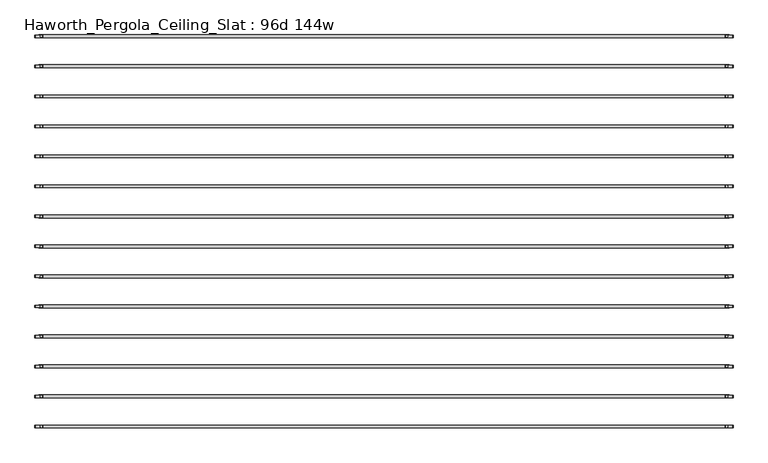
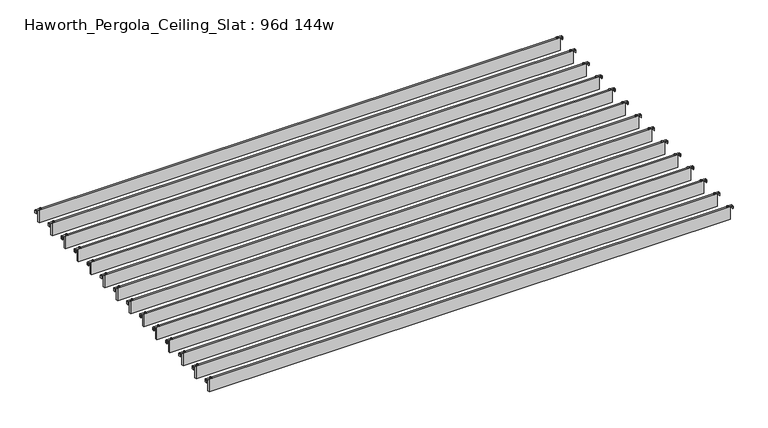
"""IFC4 building model written with IfcOpenShell, lengths in millimetres: furniture geometry, Haworth_Pergola_Ceiling_Slat : 96d 144w."""

from ifc_helpers import new_model, si_unit, point, frame, frame_2d, origin, place, context, project, spatial, polyline, circle_curve, trimmed, segment, composite_curve, outline, extrude, source, transform, mapped, element, save


def haworth_pergola_ceiling_slat_96d_144w_e5801aca(model_context):
    return source(origin(), model_context, "Body", "SweptSolid", [
        extrude(outline(composite_curve([segment(trimmed(circle_curve(frame_2d((1853.2, -304.0803333)), 5.9838099), [point((1847.2161901, -304.0803333))], [point((1859.1838099, -304.0803333))], False, "CARTESIAN"), True, "CONTINUOUS"), segment(trimmed(circle_curve(frame_2d((1853.2, -304.0803333)), 5.9838099), [point((1859.1838099, -304.0803333))], [point((1847.2161901, -304.0803333))], False, "CARTESIAN"), True, "CONTINUOUS")], self_intersect=False)), frame((0.0, 0.0, 2440.9329992), z_axis=(0.0, 0.0, 1.0), x_axis=(1.0, 0.0, 0.0)), (0.0, 0.0, 1.0), 3.4400008),
        extrude(outline(composite_curve([segment(trimmed(circle_curve(frame_2d((-1777.0, -304.0803333)), 5.9838099), [point((-1771.0161901, -304.0803333))], [point((-1782.9838099, -304.0803333))], False, "CARTESIAN"), True, "CONTINUOUS"), segment(trimmed(circle_curve(frame_2d((-1777.0, -304.0803333)), 5.9838099), [point((-1782.9838099, -304.0803333))], [point((-1771.0161901, -304.0803333))], False, "CARTESIAN"), True, "CONTINUOUS")], self_intersect=False)), frame((0.0, 0.0, 2440.9329992), z_axis=(0.0, 0.0, 1.0), x_axis=(1.0, 0.0, 0.0)), (0.0, 0.0, 1.0), 3.4400008),
        extrude(outline(composite_curve([segment(polyline([(2419.2231711, 1887.36), (2437.2499992, 1887.36)]), True, "CONTINUOUS"), segment(trimmed(circle_curve(frame_2d((2437.2499992, 1883.677)), 3.683), [point((2437.2499992, 1887.36))], [point((2440.9329992, 1883.677))], False, "CARTESIAN"), True, "CONTINUOUS"), segment(polyline([(2440.9329992, 1883.677), (2440.9329992, 1846.7), (2438.2729997, 1846.7), (2438.2729997, 1883.6905568)]), True, "CONTINUOUS"), segment(trimmed(circle_curve(frame_2d((2437.2635571, 1883.6905568)), 1.0094425), [point((2438.2729997, 1883.6905568))], [point((2437.2635571, 1884.6999993))], True, "CARTESIAN"), True, "CONTINUOUS"), segment(polyline([(2437.2635571, 1884.6999993), (2419.2231711, 1884.6999993), (2419.2231711, 1887.36)]), True, "CONTINUOUS")], self_intersect=False)), frame((0.0, -310.5733337, 0.0), z_axis=(0.0, 1.0, 0.0), x_axis=(0.0, 0.0, 1.0)), (0.0, 0.0, 1.0), 13.0),
        extrude(outline(composite_curve([segment(polyline([(2419.2231711, -1811.16), (2419.2231711, -1808.4999993), (2437.2635571, -1808.4999993)]), True, "CONTINUOUS"), segment(trimmed(circle_curve(frame_2d((2437.2635571, -1807.4905568)), 1.0094425), [point((2437.2635571, -1808.4999993))], [point((2438.2729997, -1807.4905568))], True, "CARTESIAN"), True, "CONTINUOUS"), segment(polyline([(2438.2729997, -1807.4905568), (2438.2729997, -1770.5), (2440.9329992, -1770.5), (2440.9329992, -1807.477)]), True, "CONTINUOUS"), segment(trimmed(circle_curve(frame_2d((2437.2499992, -1807.477)), 3.683), [point((2440.9329992, -1807.477))], [point((2437.2499992, -1811.16))], False, "CARTESIAN"), True, "CONTINUOUS"), segment(polyline([(2437.2499992, -1811.16), (2419.2231711, -1811.16)]), True, "CONTINUOUS")], self_intersect=False)), frame((0.0, -310.5733337, 0.0), z_axis=(0.0, 1.0, 0.0), x_axis=(0.0, 0.0, 1.0)), (0.0, 0.0, 1.0), 13.0),
        extrude(outline(polyline([(-1790.7, -311.5733333), (-1790.7, -296.5873333), (1866.9, -296.5873333), (1866.9, -311.5733333), (-1790.7, -311.5733333)])), frame((0.0, 0.0, 2346.198), z_axis=(0.0, 0.0, 1.0), x_axis=(1.0, 0.0, 0.0)), (0.0, 0.0, 1.0), 92.202),
        extrude(outline(composite_curve([segment(trimmed(circle_curve(frame_2d((1853.2, -463.2536667)), 5.9838099), [point((1847.2161901, -463.2536667))], [point((1859.1838099, -463.2536667))], False, "CARTESIAN"), True, "CONTINUOUS"), segment(trimmed(circle_curve(frame_2d((1853.2, -463.2536667)), 5.9838099), [point((1859.1838099, -463.2536667))], [point((1847.2161901, -463.2536667))], False, "CARTESIAN"), True, "CONTINUOUS")], self_intersect=False)), frame((0.0, 0.0, 2440.9329992), z_axis=(0.0, 0.0, 1.0), x_axis=(1.0, 0.0, 0.0)), (0.0, 0.0, 1.0), 3.4400008),
        extrude(outline(composite_curve([segment(trimmed(circle_curve(frame_2d((-1777.0, -463.2536667)), 5.9838099), [point((-1771.0161901, -463.2536667))], [point((-1782.9838099, -463.2536667))], False, "CARTESIAN"), True, "CONTINUOUS"), segment(trimmed(circle_curve(frame_2d((-1777.0, -463.2536667)), 5.9838099), [point((-1782.9838099, -463.2536667))], [point((-1771.0161901, -463.2536667))], False, "CARTESIAN"), True, "CONTINUOUS")], self_intersect=False)), frame((0.0, 0.0, 2440.9329992), z_axis=(0.0, 0.0, 1.0), x_axis=(1.0, 0.0, 0.0)), (0.0, 0.0, 1.0), 3.4400008),
        extrude(outline(composite_curve([segment(polyline([(2419.2231711, 1887.36), (2437.2499992, 1887.36)]), True, "CONTINUOUS"), segment(trimmed(circle_curve(frame_2d((2437.2499992, 1883.677)), 3.683), [point((2437.2499992, 1887.36))], [point((2440.9329992, 1883.677))], False, "CARTESIAN"), True, "CONTINUOUS"), segment(polyline([(2440.9329992, 1883.677), (2440.9329992, 1846.7), (2438.2729997, 1846.7), (2438.2729997, 1883.6905568)]), True, "CONTINUOUS"), segment(trimmed(circle_curve(frame_2d((2437.2635571, 1883.6905568)), 1.0094425), [point((2438.2729997, 1883.6905568))], [point((2437.2635571, 1884.6999993))], True, "CARTESIAN"), True, "CONTINUOUS"), segment(polyline([(2437.2635571, 1884.6999993), (2419.2231711, 1884.6999993), (2419.2231711, 1887.36)]), True, "CONTINUOUS")], self_intersect=False)), frame((0.0, -469.746667, 0.0), z_axis=(0.0, 1.0, 0.0), x_axis=(0.0, 0.0, 1.0)), (0.0, 0.0, 1.0), 13.0),
        extrude(outline(composite_curve([segment(polyline([(2419.2231711, -1811.16), (2419.2231711, -1808.4999993), (2437.2635571, -1808.4999993)]), True, "CONTINUOUS"), segment(trimmed(circle_curve(frame_2d((2437.2635571, -1807.4905568)), 1.0094425), [point((2437.2635571, -1808.4999993))], [point((2438.2729997, -1807.4905568))], True, "CARTESIAN"), True, "CONTINUOUS"), segment(polyline([(2438.2729997, -1807.4905568), (2438.2729997, -1770.5), (2440.9329992, -1770.5), (2440.9329992, -1807.477)]), True, "CONTINUOUS"), segment(trimmed(circle_curve(frame_2d((2437.2499992, -1807.477)), 3.683), [point((2440.9329992, -1807.477))], [point((2437.2499992, -1811.16))], False, "CARTESIAN"), True, "CONTINUOUS"), segment(polyline([(2437.2499992, -1811.16), (2419.2231711, -1811.16)]), True, "CONTINUOUS")], self_intersect=False)), frame((0.0, -469.746667, 0.0), z_axis=(0.0, 1.0, 0.0), x_axis=(0.0, 0.0, 1.0)), (0.0, 0.0, 1.0), 13.0),
        extrude(outline(polyline([(-1790.7, -470.7466667), (-1790.7, -455.7606667), (1866.9, -455.7606667), (1866.9, -470.7466667), (-1790.7, -470.7466667)])), frame((0.0, 0.0, 2346.198), z_axis=(0.0, 0.0, 1.0), x_axis=(1.0, 0.0, 0.0)), (0.0, 0.0, 1.0), 92.202),
        extrude(outline(composite_curve([segment(trimmed(circle_curve(frame_2d((1853.2, -622.427)), 5.9838099), [point((1847.2161901, -622.427))], [point((1859.1838099, -622.427))], False, "CARTESIAN"), True, "CONTINUOUS"), segment(trimmed(circle_curve(frame_2d((1853.2, -622.427)), 5.9838099), [point((1859.1838099, -622.427))], [point((1847.2161901, -622.427))], False, "CARTESIAN"), True, "CONTINUOUS")], self_intersect=False)), frame((0.0, 0.0, 2440.9329992), z_axis=(0.0, 0.0, 1.0), x_axis=(1.0, 0.0, 0.0)), (0.0, 0.0, 1.0), 3.4400008),
        extrude(outline(composite_curve([segment(trimmed(circle_curve(frame_2d((-1777.0, -622.427)), 5.9838099), [point((-1771.0161901, -622.427))], [point((-1782.9838099, -622.427))], False, "CARTESIAN"), True, "CONTINUOUS"), segment(trimmed(circle_curve(frame_2d((-1777.0, -622.427)), 5.9838099), [point((-1782.9838099, -622.427))], [point((-1771.0161901, -622.427))], False, "CARTESIAN"), True, "CONTINUOUS")], self_intersect=False)), frame((0.0, 0.0, 2440.9329992), z_axis=(0.0, 0.0, 1.0), x_axis=(1.0, 0.0, 0.0)), (0.0, 0.0, 1.0), 3.4400008),
        extrude(outline(composite_curve([segment(polyline([(2419.2231711, 1887.36), (2437.2499992, 1887.36)]), True, "CONTINUOUS"), segment(trimmed(circle_curve(frame_2d((2437.2499992, 1883.677)), 3.683), [point((2437.2499992, 1887.36))], [point((2440.9329992, 1883.677))], False, "CARTESIAN"), True, "CONTINUOUS"), segment(polyline([(2440.9329992, 1883.677), (2440.9329992, 1846.7), (2438.2729997, 1846.7), (2438.2729997, 1883.6905568)]), True, "CONTINUOUS"), segment(trimmed(circle_curve(frame_2d((2437.2635571, 1883.6905568)), 1.0094425), [point((2438.2729997, 1883.6905568))], [point((2437.2635571, 1884.6999993))], True, "CARTESIAN"), True, "CONTINUOUS"), segment(polyline([(2437.2635571, 1884.6999993), (2419.2231711, 1884.6999993), (2419.2231711, 1887.36)]), True, "CONTINUOUS")], self_intersect=False)), frame((0.0, -628.9200003, 0.0), z_axis=(0.0, 1.0, 0.0), x_axis=(0.0, 0.0, 1.0)), (0.0, 0.0, 1.0), 13.0),
        extrude(outline(composite_curve([segment(polyline([(2419.2231711, -1811.16), (2419.2231711, -1808.4999993), (2437.2635571, -1808.4999993)]), True, "CONTINUOUS"), segment(trimmed(circle_curve(frame_2d((2437.2635571, -1807.4905568)), 1.0094425), [point((2437.2635571, -1808.4999993))], [point((2438.2729997, -1807.4905568))], True, "CARTESIAN"), True, "CONTINUOUS"), segment(polyline([(2438.2729997, -1807.4905568), (2438.2729997, -1770.5), (2440.9329992, -1770.5), (2440.9329992, -1807.477)]), True, "CONTINUOUS"), segment(trimmed(circle_curve(frame_2d((2437.2499992, -1807.477)), 3.683), [point((2440.9329992, -1807.477))], [point((2437.2499992, -1811.16))], False, "CARTESIAN"), True, "CONTINUOUS"), segment(polyline([(2437.2499992, -1811.16), (2419.2231711, -1811.16)]), True, "CONTINUOUS")], self_intersect=False)), frame((0.0, -628.9200003, 0.0), z_axis=(0.0, 1.0, 0.0), x_axis=(0.0, 0.0, 1.0)), (0.0, 0.0, 1.0), 13.0),
        extrude(outline(polyline([(-1790.7, -629.92), (-1790.7, -614.934), (1866.9, -614.934), (1866.9, -629.92), (-1790.7, -629.92)])), frame((0.0, 0.0, 2346.198), z_axis=(0.0, 0.0, 1.0), x_axis=(1.0, 0.0, 0.0)), (0.0, 0.0, 1.0), 92.202),
        extrude(outline(composite_curve([segment(trimmed(circle_curve(frame_2d((1853.2, -781.6003333)), 5.9838099), [point((1847.2161901, -781.6003333))], [point((1859.1838099, -781.6003333))], False, "CARTESIAN"), True, "CONTINUOUS"), segment(trimmed(circle_curve(frame_2d((1853.2, -781.6003333)), 5.9838099), [point((1859.1838099, -781.6003333))], [point((1847.2161901, -781.6003333))], False, "CARTESIAN"), True, "CONTINUOUS")], self_intersect=False)), frame((0.0, 0.0, 2440.9329992), z_axis=(0.0, 0.0, 1.0), x_axis=(1.0, 0.0, 0.0)), (0.0, 0.0, 1.0), 3.4400008),
        extrude(outline(composite_curve([segment(trimmed(circle_curve(frame_2d((-1777.0, -781.6003333)), 5.9838099), [point((-1771.0161901, -781.6003333))], [point((-1782.9838099, -781.6003333))], False, "CARTESIAN"), True, "CONTINUOUS"), segment(trimmed(circle_curve(frame_2d((-1777.0, -781.6003333)), 5.9838099), [point((-1782.9838099, -781.6003333))], [point((-1771.0161901, -781.6003333))], False, "CARTESIAN"), True, "CONTINUOUS")], self_intersect=False)), frame((0.0, 0.0, 2440.9329992), z_axis=(0.0, 0.0, 1.0), x_axis=(1.0, 0.0, 0.0)), (0.0, 0.0, 1.0), 3.4400008),
        extrude(outline(composite_curve([segment(polyline([(2419.2231711, 1887.36), (2437.2499992, 1887.36)]), True, "CONTINUOUS"), segment(trimmed(circle_curve(frame_2d((2437.2499992, 1883.677)), 3.683), [point((2437.2499992, 1887.36))], [point((2440.9329992, 1883.677))], False, "CARTESIAN"), True, "CONTINUOUS"), segment(polyline([(2440.9329992, 1883.677), (2440.9329992, 1846.7), (2438.2729997, 1846.7), (2438.2729997, 1883.6905568)]), True, "CONTINUOUS"), segment(trimmed(circle_curve(frame_2d((2437.2635571, 1883.6905568)), 1.0094425), [point((2438.2729997, 1883.6905568))], [point((2437.2635571, 1884.6999993))], True, "CARTESIAN"), True, "CONTINUOUS"), segment(polyline([(2437.2635571, 1884.6999993), (2419.2231711, 1884.6999993), (2419.2231711, 1887.36)]), True, "CONTINUOUS")], self_intersect=False)), frame((0.0, -788.0933337, 0.0), z_axis=(0.0, 1.0, 0.0), x_axis=(0.0, 0.0, 1.0)), (0.0, 0.0, 1.0), 13.0),
        extrude(outline(composite_curve([segment(polyline([(2419.2231711, -1811.16), (2419.2231711, -1808.4999993), (2437.2635571, -1808.4999993)]), True, "CONTINUOUS"), segment(trimmed(circle_curve(frame_2d((2437.2635571, -1807.4905568)), 1.0094425), [point((2437.2635571, -1808.4999993))], [point((2438.2729997, -1807.4905568))], True, "CARTESIAN"), True, "CONTINUOUS"), segment(polyline([(2438.2729997, -1807.4905568), (2438.2729997, -1770.5), (2440.9329992, -1770.5), (2440.9329992, -1807.477)]), True, "CONTINUOUS"), segment(trimmed(circle_curve(frame_2d((2437.2499992, -1807.477)), 3.683), [point((2440.9329992, -1807.477))], [point((2437.2499992, -1811.16))], False, "CARTESIAN"), True, "CONTINUOUS"), segment(polyline([(2437.2499992, -1811.16), (2419.2231711, -1811.16)]), True, "CONTINUOUS")], self_intersect=False)), frame((0.0, -788.0933337, 0.0), z_axis=(0.0, 1.0, 0.0), x_axis=(0.0, 0.0, 1.0)), (0.0, 0.0, 1.0), 13.0),
        extrude(outline(polyline([(-1790.7, -789.0933333), (-1790.7, -774.1073333), (1866.9, -774.1073333), (1866.9, -789.0933333), (-1790.7, -789.0933333)])), frame((0.0, 0.0, 2346.198), z_axis=(0.0, 0.0, 1.0), x_axis=(1.0, 0.0, 0.0)), (0.0, 0.0, 1.0), 92.202),
        extrude(outline(composite_curve([segment(trimmed(circle_curve(frame_2d((1853.2, -940.7736667)), 5.9838099), [point((1847.2161901, -940.7736667))], [point((1859.1838099, -940.7736667))], False, "CARTESIAN"), True, "CONTINUOUS"), segment(trimmed(circle_curve(frame_2d((1853.2, -940.7736667)), 5.9838099), [point((1859.1838099, -940.7736667))], [point((1847.2161901, -940.7736667))], False, "CARTESIAN"), True, "CONTINUOUS")], self_intersect=False)), frame((0.0, 0.0, 2440.9329992), z_axis=(0.0, 0.0, 1.0), x_axis=(1.0, 0.0, 0.0)), (0.0, 0.0, 1.0), 3.4400008),
        extrude(outline(composite_curve([segment(trimmed(circle_curve(frame_2d((-1777.0, -940.7736667)), 5.9838099), [point((-1771.0161901, -940.7736667))], [point((-1782.9838099, -940.7736667))], False, "CARTESIAN"), True, "CONTINUOUS"), segment(trimmed(circle_curve(frame_2d((-1777.0, -940.7736667)), 5.9838099), [point((-1782.9838099, -940.7736667))], [point((-1771.0161901, -940.7736667))], False, "CARTESIAN"), True, "CONTINUOUS")], self_intersect=False)), frame((0.0, 0.0, 2440.9329992), z_axis=(0.0, 0.0, 1.0), x_axis=(1.0, 0.0, 0.0)), (0.0, 0.0, 1.0), 3.4400008),
        extrude(outline(composite_curve([segment(polyline([(2419.2231711, 1887.36), (2437.2499992, 1887.36)]), True, "CONTINUOUS"), segment(trimmed(circle_curve(frame_2d((2437.2499992, 1883.677)), 3.683), [point((2437.2499992, 1887.36))], [point((2440.9329992, 1883.677))], False, "CARTESIAN"), True, "CONTINUOUS"), segment(polyline([(2440.9329992, 1883.677), (2440.9329992, 1846.7), (2438.2729997, 1846.7), (2438.2729997, 1883.6905568)]), True, "CONTINUOUS"), segment(trimmed(circle_curve(frame_2d((2437.2635571, 1883.6905568)), 1.0094425), [point((2438.2729997, 1883.6905568))], [point((2437.2635571, 1884.6999993))], True, "CARTESIAN"), True, "CONTINUOUS"), segment(polyline([(2437.2635571, 1884.6999993), (2419.2231711, 1884.6999993), (2419.2231711, 1887.36)]), True, "CONTINUOUS")], self_intersect=False)), frame((0.0, -947.266667, 0.0), z_axis=(0.0, 1.0, 0.0), x_axis=(0.0, 0.0, 1.0)), (0.0, 0.0, 1.0), 13.0),
        extrude(outline(composite_curve([segment(polyline([(2419.2231711, -1811.16), (2419.2231711, -1808.4999993), (2437.2635571, -1808.4999993)]), True, "CONTINUOUS"), segment(trimmed(circle_curve(frame_2d((2437.2635571, -1807.4905568)), 1.0094425), [point((2437.2635571, -1808.4999993))], [point((2438.2729997, -1807.4905568))], True, "CARTESIAN"), True, "CONTINUOUS"), segment(polyline([(2438.2729997, -1807.4905568), (2438.2729997, -1770.5), (2440.9329992, -1770.5), (2440.9329992, -1807.477)]), True, "CONTINUOUS"), segment(trimmed(circle_curve(frame_2d((2437.2499992, -1807.477)), 3.683), [point((2440.9329992, -1807.477))], [point((2437.2499992, -1811.16))], False, "CARTESIAN"), True, "CONTINUOUS"), segment(polyline([(2437.2499992, -1811.16), (2419.2231711, -1811.16)]), True, "CONTINUOUS")], self_intersect=False)), frame((0.0, -947.266667, 0.0), z_axis=(0.0, 1.0, 0.0), x_axis=(0.0, 0.0, 1.0)), (0.0, 0.0, 1.0), 13.0),
        extrude(outline(polyline([(-1790.7, -948.2666667), (-1790.7, -933.2806667), (1866.9, -933.2806667), (1866.9, -948.2666667), (-1790.7, -948.2666667)])), frame((0.0, 0.0, 2346.198), z_axis=(0.0, 0.0, 1.0), x_axis=(1.0, 0.0, 0.0)), (0.0, 0.0, 1.0), 92.202),
        extrude(outline(composite_curve([segment(trimmed(circle_curve(frame_2d((1853.2, -1099.947)), 5.9838099), [point((1847.2161901, -1099.947))], [point((1859.1838099, -1099.947))], False, "CARTESIAN"), True, "CONTINUOUS"), segment(trimmed(circle_curve(frame_2d((1853.2, -1099.947)), 5.9838099), [point((1859.1838099, -1099.947))], [point((1847.2161901, -1099.947))], False, "CARTESIAN"), True, "CONTINUOUS")], self_intersect=False)), frame((0.0, 0.0, 2440.9329992), z_axis=(0.0, 0.0, 1.0), x_axis=(1.0, 0.0, 0.0)), (0.0, 0.0, 1.0), 3.4400008),
        extrude(outline(composite_curve([segment(trimmed(circle_curve(frame_2d((-1777.0, -1099.947)), 5.9838099), [point((-1771.0161901, -1099.947))], [point((-1782.9838099, -1099.947))], False, "CARTESIAN"), True, "CONTINUOUS"), segment(trimmed(circle_curve(frame_2d((-1777.0, -1099.947)), 5.9838099), [point((-1782.9838099, -1099.947))], [point((-1771.0161901, -1099.947))], False, "CARTESIAN"), True, "CONTINUOUS")], self_intersect=False)), frame((0.0, 0.0, 2440.9329992), z_axis=(0.0, 0.0, 1.0), x_axis=(1.0, 0.0, 0.0)), (0.0, 0.0, 1.0), 3.4400008),
        extrude(outline(composite_curve([segment(polyline([(2419.2231711, 1887.36), (2437.2499992, 1887.36)]), True, "CONTINUOUS"), segment(trimmed(circle_curve(frame_2d((2437.2499992, 1883.677)), 3.683), [point((2437.2499992, 1887.36))], [point((2440.9329992, 1883.677))], False, "CARTESIAN"), True, "CONTINUOUS"), segment(polyline([(2440.9329992, 1883.677), (2440.9329992, 1846.7), (2438.2729997, 1846.7), (2438.2729997, 1883.6905568)]), True, "CONTINUOUS"), segment(trimmed(circle_curve(frame_2d((2437.2635571, 1883.6905568)), 1.0094425), [point((2438.2729997, 1883.6905568))], [point((2437.2635571, 1884.6999993))], True, "CARTESIAN"), True, "CONTINUOUS"), segment(polyline([(2437.2635571, 1884.6999993), (2419.2231711, 1884.6999993), (2419.2231711, 1887.36)]), True, "CONTINUOUS")], self_intersect=False)), frame((0.0, -1106.4400003, 0.0), z_axis=(0.0, 1.0, 0.0), x_axis=(0.0, 0.0, 1.0)), (0.0, 0.0, 1.0), 13.0),
        extrude(outline(composite_curve([segment(polyline([(2419.2231711, -1811.16), (2419.2231711, -1808.4999993), (2437.2635571, -1808.4999993)]), True, "CONTINUOUS"), segment(trimmed(circle_curve(frame_2d((2437.2635571, -1807.4905568)), 1.0094425), [point((2437.2635571, -1808.4999993))], [point((2438.2729997, -1807.4905568))], True, "CARTESIAN"), True, "CONTINUOUS"), segment(polyline([(2438.2729997, -1807.4905568), (2438.2729997, -1770.5), (2440.9329992, -1770.5), (2440.9329992, -1807.477)]), True, "CONTINUOUS"), segment(trimmed(circle_curve(frame_2d((2437.2499992, -1807.477)), 3.683), [point((2440.9329992, -1807.477))], [point((2437.2499992, -1811.16))], False, "CARTESIAN"), True, "CONTINUOUS"), segment(polyline([(2437.2499992, -1811.16), (2419.2231711, -1811.16)]), True, "CONTINUOUS")], self_intersect=False)), frame((0.0, -1106.4400003, 0.0), z_axis=(0.0, 1.0, 0.0), x_axis=(0.0, 0.0, 1.0)), (0.0, 0.0, 1.0), 13.0),
        extrude(outline(polyline([(-1790.7, -1107.44), (-1790.7, -1092.454), (1866.9, -1092.454), (1866.9, -1107.44), (-1790.7, -1107.44)])), frame((0.0, 0.0, 2346.198), z_axis=(0.0, 0.0, 1.0), x_axis=(1.0, 0.0, 0.0)), (0.0, 0.0, 1.0), 92.202),
        extrude(outline(composite_curve([segment(trimmed(circle_curve(frame_2d((1853.2, -1259.1203333)), 5.9838099), [point((1847.2161901, -1259.1203333))], [point((1859.1838099, -1259.1203333))], False, "CARTESIAN"), True, "CONTINUOUS"), segment(trimmed(circle_curve(frame_2d((1853.2, -1259.1203333)), 5.9838099), [point((1859.1838099, -1259.1203333))], [point((1847.2161901, -1259.1203333))], False, "CARTESIAN"), True, "CONTINUOUS")], self_intersect=False)), frame((0.0, 0.0, 2440.9329992), z_axis=(0.0, 0.0, 1.0), x_axis=(1.0, 0.0, 0.0)), (0.0, 0.0, 1.0), 3.4400008),
        extrude(outline(composite_curve([segment(trimmed(circle_curve(frame_2d((-1777.0, -1259.1203333)), 5.9838099), [point((-1771.0161901, -1259.1203333))], [point((-1782.9838099, -1259.1203333))], False, "CARTESIAN"), True, "CONTINUOUS"), segment(trimmed(circle_curve(frame_2d((-1777.0, -1259.1203333)), 5.9838099), [point((-1782.9838099, -1259.1203333))], [point((-1771.0161901, -1259.1203333))], False, "CARTESIAN"), True, "CONTINUOUS")], self_intersect=False)), frame((0.0, 0.0, 2440.9329992), z_axis=(0.0, 0.0, 1.0), x_axis=(1.0, 0.0, 0.0)), (0.0, 0.0, 1.0), 3.4400008),
        extrude(outline(composite_curve([segment(polyline([(2419.2231711, 1887.36), (2437.2499992, 1887.36)]), True, "CONTINUOUS"), segment(trimmed(circle_curve(frame_2d((2437.2499992, 1883.677)), 3.683), [point((2437.2499992, 1887.36))], [point((2440.9329992, 1883.677))], False, "CARTESIAN"), True, "CONTINUOUS"), segment(polyline([(2440.9329992, 1883.677), (2440.9329992, 1846.7), (2438.2729997, 1846.7), (2438.2729997, 1883.6905568)]), True, "CONTINUOUS"), segment(trimmed(circle_curve(frame_2d((2437.2635571, 1883.6905568)), 1.0094425), [point((2438.2729997, 1883.6905568))], [point((2437.2635571, 1884.6999993))], True, "CARTESIAN"), True, "CONTINUOUS"), segment(polyline([(2437.2635571, 1884.6999993), (2419.2231711, 1884.6999993), (2419.2231711, 1887.36)]), True, "CONTINUOUS")], self_intersect=False)), frame((0.0, -1265.6133337, 0.0), z_axis=(0.0, 1.0, 0.0), x_axis=(0.0, 0.0, 1.0)), (0.0, 0.0, 1.0), 13.0),
        extrude(outline(composite_curve([segment(polyline([(2419.2231711, -1811.16), (2419.2231711, -1808.4999993), (2437.2635571, -1808.4999993)]), True, "CONTINUOUS"), segment(trimmed(circle_curve(frame_2d((2437.2635571, -1807.4905568)), 1.0094425), [point((2437.2635571, -1808.4999993))], [point((2438.2729997, -1807.4905568))], True, "CARTESIAN"), True, "CONTINUOUS"), segment(polyline([(2438.2729997, -1807.4905568), (2438.2729997, -1770.5), (2440.9329992, -1770.5), (2440.9329992, -1807.477)]), True, "CONTINUOUS"), segment(trimmed(circle_curve(frame_2d((2437.2499992, -1807.477)), 3.683), [point((2440.9329992, -1807.477))], [point((2437.2499992, -1811.16))], False, "CARTESIAN"), True, "CONTINUOUS"), segment(polyline([(2437.2499992, -1811.16), (2419.2231711, -1811.16)]), True, "CONTINUOUS")], self_intersect=False)), frame((0.0, -1265.6133337, 0.0), z_axis=(0.0, 1.0, 0.0), x_axis=(0.0, 0.0, 1.0)), (0.0, 0.0, 1.0), 13.0),
        extrude(outline(polyline([(-1790.7, -1266.6133333), (-1790.7, -1251.6273333), (1866.9, -1251.6273333), (1866.9, -1266.6133333), (-1790.7, -1266.6133333)])), frame((0.0, 0.0, 2346.198), z_axis=(0.0, 0.0, 1.0), x_axis=(1.0, 0.0, 0.0)), (0.0, 0.0, 1.0), 92.202),
        extrude(outline(composite_curve([segment(trimmed(circle_curve(frame_2d((1853.2, -1418.2936667)), 5.9838099), [point((1847.2161901, -1418.2936667))], [point((1859.1838099, -1418.2936667))], False, "CARTESIAN"), True, "CONTINUOUS"), segment(trimmed(circle_curve(frame_2d((1853.2, -1418.2936667)), 5.9838099), [point((1859.1838099, -1418.2936667))], [point((1847.2161901, -1418.2936667))], False, "CARTESIAN"), True, "CONTINUOUS")], self_intersect=False)), frame((0.0, 0.0, 2440.9329992), z_axis=(0.0, 0.0, 1.0), x_axis=(1.0, 0.0, 0.0)), (0.0, 0.0, 1.0), 3.4400008),
        extrude(outline(composite_curve([segment(trimmed(circle_curve(frame_2d((-1777.0, -1418.2936667)), 5.9838099), [point((-1771.0161901, -1418.2936667))], [point((-1782.9838099, -1418.2936667))], False, "CARTESIAN"), True, "CONTINUOUS"), segment(trimmed(circle_curve(frame_2d((-1777.0, -1418.2936667)), 5.9838099), [point((-1782.9838099, -1418.2936667))], [point((-1771.0161901, -1418.2936667))], False, "CARTESIAN"), True, "CONTINUOUS")], self_intersect=False)), frame((0.0, 0.0, 2440.9329992), z_axis=(0.0, 0.0, 1.0), x_axis=(1.0, 0.0, 0.0)), (0.0, 0.0, 1.0), 3.4400008),
        extrude(outline(composite_curve([segment(polyline([(2419.2231711, 1887.36), (2437.2499992, 1887.36)]), True, "CONTINUOUS"), segment(trimmed(circle_curve(frame_2d((2437.2499992, 1883.677)), 3.683), [point((2437.2499992, 1887.36))], [point((2440.9329992, 1883.677))], False, "CARTESIAN"), True, "CONTINUOUS"), segment(polyline([(2440.9329992, 1883.677), (2440.9329992, 1846.7), (2438.2729997, 1846.7), (2438.2729997, 1883.6905568)]), True, "CONTINUOUS"), segment(trimmed(circle_curve(frame_2d((2437.2635571, 1883.6905568)), 1.0094425), [point((2438.2729997, 1883.6905568))], [point((2437.2635571, 1884.6999993))], True, "CARTESIAN"), True, "CONTINUOUS"), segment(polyline([(2437.2635571, 1884.6999993), (2419.2231711, 1884.6999993), (2419.2231711, 1887.36)]), True, "CONTINUOUS")], self_intersect=False)), frame((0.0, -1424.786667, 0.0), z_axis=(0.0, 1.0, 0.0), x_axis=(0.0, 0.0, 1.0)), (0.0, 0.0, 1.0), 13.0),
        extrude(outline(composite_curve([segment(polyline([(2419.2231711, -1811.16), (2419.2231711, -1808.4999993), (2437.2635571, -1808.4999993)]), True, "CONTINUOUS"), segment(trimmed(circle_curve(frame_2d((2437.2635571, -1807.4905568)), 1.0094425), [point((2437.2635571, -1808.4999993))], [point((2438.2729997, -1807.4905568))], True, "CARTESIAN"), True, "CONTINUOUS"), segment(polyline([(2438.2729997, -1807.4905568), (2438.2729997, -1770.5), (2440.9329992, -1770.5), (2440.9329992, -1807.477)]), True, "CONTINUOUS"), segment(trimmed(circle_curve(frame_2d((2437.2499992, -1807.477)), 3.683), [point((2440.9329992, -1807.477))], [point((2437.2499992, -1811.16))], False, "CARTESIAN"), True, "CONTINUOUS"), segment(polyline([(2437.2499992, -1811.16), (2419.2231711, -1811.16)]), True, "CONTINUOUS")], self_intersect=False)), frame((0.0, -1424.786667, 0.0), z_axis=(0.0, 1.0, 0.0), x_axis=(0.0, 0.0, 1.0)), (0.0, 0.0, 1.0), 13.0),
        extrude(outline(polyline([(-1790.7, -1425.7866667), (-1790.7, -1410.8006667), (1866.9, -1410.8006667), (1866.9, -1425.7866667), (-1790.7, -1425.7866667)])), frame((0.0, 0.0, 2346.198), z_axis=(0.0, 0.0, 1.0), x_axis=(1.0, 0.0, 0.0)), (0.0, 0.0, 1.0), 92.202),
        extrude(outline(composite_curve([segment(trimmed(circle_curve(frame_2d((1853.2, -1577.467)), 5.9838099), [point((1847.2161901, -1577.467))], [point((1859.1838099, -1577.467))], False, "CARTESIAN"), True, "CONTINUOUS"), segment(trimmed(circle_curve(frame_2d((1853.2, -1577.467)), 5.9838099), [point((1859.1838099, -1577.467))], [point((1847.2161901, -1577.467))], False, "CARTESIAN"), True, "CONTINUOUS")], self_intersect=False)), frame((0.0, 0.0, 2440.9329992), z_axis=(0.0, 0.0, 1.0), x_axis=(1.0, 0.0, 0.0)), (0.0, 0.0, 1.0), 3.4400008),
        extrude(outline(composite_curve([segment(trimmed(circle_curve(frame_2d((-1777.0, -1577.467)), 5.9838099), [point((-1771.0161901, -1577.467))], [point((-1782.9838099, -1577.467))], False, "CARTESIAN"), True, "CONTINUOUS"), segment(trimmed(circle_curve(frame_2d((-1777.0, -1577.467)), 5.9838099), [point((-1782.9838099, -1577.467))], [point((-1771.0161901, -1577.467))], False, "CARTESIAN"), True, "CONTINUOUS")], self_intersect=False)), frame((0.0, 0.0, 2440.9329992), z_axis=(0.0, 0.0, 1.0), x_axis=(1.0, 0.0, 0.0)), (0.0, 0.0, 1.0), 3.4400008),
        extrude(outline(composite_curve([segment(polyline([(2419.2231711, 1887.36), (2437.2499992, 1887.36)]), True, "CONTINUOUS"), segment(trimmed(circle_curve(frame_2d((2437.2499992, 1883.677)), 3.683), [point((2437.2499992, 1887.36))], [point((2440.9329992, 1883.677))], False, "CARTESIAN"), True, "CONTINUOUS"), segment(polyline([(2440.9329992, 1883.677), (2440.9329992, 1846.7), (2438.2729997, 1846.7), (2438.2729997, 1883.6905568)]), True, "CONTINUOUS"), segment(trimmed(circle_curve(frame_2d((2437.2635571, 1883.6905568)), 1.0094425), [point((2438.2729997, 1883.6905568))], [point((2437.2635571, 1884.6999993))], True, "CARTESIAN"), True, "CONTINUOUS"), segment(polyline([(2437.2635571, 1884.6999993), (2419.2231711, 1884.6999993), (2419.2231711, 1887.36)]), True, "CONTINUOUS")], self_intersect=False)), frame((0.0, -1583.9600003, 0.0), z_axis=(0.0, 1.0, 0.0), x_axis=(0.0, 0.0, 1.0)), (0.0, 0.0, 1.0), 13.0),
        extrude(outline(composite_curve([segment(polyline([(2419.2231711, -1811.16), (2419.2231711, -1808.4999993), (2437.2635571, -1808.4999993)]), True, "CONTINUOUS"), segment(trimmed(circle_curve(frame_2d((2437.2635571, -1807.4905568)), 1.0094425), [point((2437.2635571, -1808.4999993))], [point((2438.2729997, -1807.4905568))], True, "CARTESIAN"), True, "CONTINUOUS"), segment(polyline([(2438.2729997, -1807.4905568), (2438.2729997, -1770.5), (2440.9329992, -1770.5), (2440.9329992, -1807.477)]), True, "CONTINUOUS"), segment(trimmed(circle_curve(frame_2d((2437.2499992, -1807.477)), 3.683), [point((2440.9329992, -1807.477))], [point((2437.2499992, -1811.16))], False, "CARTESIAN"), True, "CONTINUOUS"), segment(polyline([(2437.2499992, -1811.16), (2419.2231711, -1811.16)]), True, "CONTINUOUS")], self_intersect=False)), frame((0.0, -1583.9600003, 0.0), z_axis=(0.0, 1.0, 0.0), x_axis=(0.0, 0.0, 1.0)), (0.0, 0.0, 1.0), 13.0),
        extrude(outline(polyline([(-1790.7, -1584.96), (-1790.7, -1569.974), (1866.9, -1569.974), (1866.9, -1584.96), (-1790.7, -1584.96)])), frame((0.0, 0.0, 2346.198), z_axis=(0.0, 0.0, 1.0), x_axis=(1.0, 0.0, 0.0)), (0.0, 0.0, 1.0), 92.202),
        extrude(outline(composite_curve([segment(trimmed(circle_curve(frame_2d((1853.2, -1736.6403333)), 5.9838099), [point((1847.2161901, -1736.6403333))], [point((1859.1838099, -1736.6403333))], False, "CARTESIAN"), True, "CONTINUOUS"), segment(trimmed(circle_curve(frame_2d((1853.2, -1736.6403333)), 5.9838099), [point((1859.1838099, -1736.6403333))], [point((1847.2161901, -1736.6403333))], False, "CARTESIAN"), True, "CONTINUOUS")], self_intersect=False)), frame((0.0, 0.0, 2440.9329992), z_axis=(0.0, 0.0, 1.0), x_axis=(1.0, 0.0, 0.0)), (0.0, 0.0, 1.0), 3.4400008),
        extrude(outline(composite_curve([segment(trimmed(circle_curve(frame_2d((-1777.0, -1736.6403333)), 5.9838099), [point((-1771.0161901, -1736.6403333))], [point((-1782.9838099, -1736.6403333))], False, "CARTESIAN"), True, "CONTINUOUS"), segment(trimmed(circle_curve(frame_2d((-1777.0, -1736.6403333)), 5.9838099), [point((-1782.9838099, -1736.6403333))], [point((-1771.0161901, -1736.6403333))], False, "CARTESIAN"), True, "CONTINUOUS")], self_intersect=False)), frame((0.0, 0.0, 2440.9329992), z_axis=(0.0, 0.0, 1.0), x_axis=(1.0, 0.0, 0.0)), (0.0, 0.0, 1.0), 3.4400008),
        extrude(outline(composite_curve([segment(polyline([(2419.2231711, 1887.36), (2437.2499992, 1887.36)]), True, "CONTINUOUS"), segment(trimmed(circle_curve(frame_2d((2437.2499992, 1883.677)), 3.683), [point((2437.2499992, 1887.36))], [point((2440.9329992, 1883.677))], False, "CARTESIAN"), True, "CONTINUOUS"), segment(polyline([(2440.9329992, 1883.677), (2440.9329992, 1846.7), (2438.2729997, 1846.7), (2438.2729997, 1883.6905568)]), True, "CONTINUOUS"), segment(trimmed(circle_curve(frame_2d((2437.2635571, 1883.6905568)), 1.0094425), [point((2438.2729997, 1883.6905568))], [point((2437.2635571, 1884.6999993))], True, "CARTESIAN"), True, "CONTINUOUS"), segment(polyline([(2437.2635571, 1884.6999993), (2419.2231711, 1884.6999993), (2419.2231711, 1887.36)]), True, "CONTINUOUS")], self_intersect=False)), frame((0.0, -1743.1333337, 0.0), z_axis=(0.0, 1.0, 0.0), x_axis=(0.0, 0.0, 1.0)), (0.0, 0.0, 1.0), 13.0),
        extrude(outline(composite_curve([segment(polyline([(2419.2231711, -1811.16), (2419.2231711, -1808.4999993), (2437.2635571, -1808.4999993)]), True, "CONTINUOUS"), segment(trimmed(circle_curve(frame_2d((2437.2635571, -1807.4905568)), 1.0094425), [point((2437.2635571, -1808.4999993))], [point((2438.2729997, -1807.4905568))], True, "CARTESIAN"), True, "CONTINUOUS"), segment(polyline([(2438.2729997, -1807.4905568), (2438.2729997, -1770.5), (2440.9329992, -1770.5), (2440.9329992, -1807.477)]), True, "CONTINUOUS"), segment(trimmed(circle_curve(frame_2d((2437.2499992, -1807.477)), 3.683), [point((2440.9329992, -1807.477))], [point((2437.2499992, -1811.16))], False, "CARTESIAN"), True, "CONTINUOUS"), segment(polyline([(2437.2499992, -1811.16), (2419.2231711, -1811.16)]), True, "CONTINUOUS")], self_intersect=False)), frame((0.0, -1743.1333337, 0.0), z_axis=(0.0, 1.0, 0.0), x_axis=(0.0, 0.0, 1.0)), (0.0, 0.0, 1.0), 13.0),
        extrude(outline(polyline([(-1790.7, -1744.1333333), (-1790.7, -1729.1473333), (1866.9, -1729.1473333), (1866.9, -1744.1333333), (-1790.7, -1744.1333333)])), frame((0.0, 0.0, 2346.198), z_axis=(0.0, 0.0, 1.0), x_axis=(1.0, 0.0, 0.0)), (0.0, 0.0, 1.0), 92.202),
        extrude(outline(composite_curve([segment(trimmed(circle_curve(frame_2d((1853.2, -1895.8136667)), 5.9838099), [point((1847.2161901, -1895.8136667))], [point((1859.1838099, -1895.8136667))], False, "CARTESIAN"), True, "CONTINUOUS"), segment(trimmed(circle_curve(frame_2d((1853.2, -1895.8136667)), 5.9838099), [point((1859.1838099, -1895.8136667))], [point((1847.2161901, -1895.8136667))], False, "CARTESIAN"), True, "CONTINUOUS")], self_intersect=False)), frame((0.0, 0.0, 2440.9329992), z_axis=(0.0, 0.0, 1.0), x_axis=(1.0, 0.0, 0.0)), (0.0, 0.0, 1.0), 3.4400008),
        extrude(outline(composite_curve([segment(trimmed(circle_curve(frame_2d((-1777.0, -1895.8136667)), 5.9838099), [point((-1771.0161901, -1895.8136667))], [point((-1782.9838099, -1895.8136667))], False, "CARTESIAN"), True, "CONTINUOUS"), segment(trimmed(circle_curve(frame_2d((-1777.0, -1895.8136667)), 5.9838099), [point((-1782.9838099, -1895.8136667))], [point((-1771.0161901, -1895.8136667))], False, "CARTESIAN"), True, "CONTINUOUS")], self_intersect=False)), frame((0.0, 0.0, 2440.9329992), z_axis=(0.0, 0.0, 1.0), x_axis=(1.0, 0.0, 0.0)), (0.0, 0.0, 1.0), 3.4400008),
        extrude(outline(composite_curve([segment(polyline([(2419.2231711, 1887.36), (2437.2499992, 1887.36)]), True, "CONTINUOUS"), segment(trimmed(circle_curve(frame_2d((2437.2499992, 1883.677)), 3.683), [point((2437.2499992, 1887.36))], [point((2440.9329992, 1883.677))], False, "CARTESIAN"), True, "CONTINUOUS"), segment(polyline([(2440.9329992, 1883.677), (2440.9329992, 1846.7), (2438.2729997, 1846.7), (2438.2729997, 1883.6905568)]), True, "CONTINUOUS"), segment(trimmed(circle_curve(frame_2d((2437.2635571, 1883.6905568)), 1.0094425), [point((2438.2729997, 1883.6905568))], [point((2437.2635571, 1884.6999993))], True, "CARTESIAN"), True, "CONTINUOUS"), segment(polyline([(2437.2635571, 1884.6999993), (2419.2231711, 1884.6999993), (2419.2231711, 1887.36)]), True, "CONTINUOUS")], self_intersect=False)), frame((0.0, -1902.306667, 0.0), z_axis=(0.0, 1.0, 0.0), x_axis=(0.0, 0.0, 1.0)), (0.0, 0.0, 1.0), 13.0),
        extrude(outline(composite_curve([segment(polyline([(2419.2231711, -1811.16), (2419.2231711, -1808.4999993), (2437.2635571, -1808.4999993)]), True, "CONTINUOUS"), segment(trimmed(circle_curve(frame_2d((2437.2635571, -1807.4905568)), 1.0094425), [point((2437.2635571, -1808.4999993))], [point((2438.2729997, -1807.4905568))], True, "CARTESIAN"), True, "CONTINUOUS"), segment(polyline([(2438.2729997, -1807.4905568), (2438.2729997, -1770.5), (2440.9329992, -1770.5), (2440.9329992, -1807.477)]), True, "CONTINUOUS"), segment(trimmed(circle_curve(frame_2d((2437.2499992, -1807.477)), 3.683), [point((2440.9329992, -1807.477))], [point((2437.2499992, -1811.16))], False, "CARTESIAN"), True, "CONTINUOUS"), segment(polyline([(2437.2499992, -1811.16), (2419.2231711, -1811.16)]), True, "CONTINUOUS")], self_intersect=False)), frame((0.0, -1902.306667, 0.0), z_axis=(0.0, 1.0, 0.0), x_axis=(0.0, 0.0, 1.0)), (0.0, 0.0, 1.0), 13.0),
        extrude(outline(polyline([(-1790.7, -1903.3066667), (-1790.7, -1888.3206667), (1866.9, -1888.3206667), (1866.9, -1903.3066667), (-1790.7, -1903.3066667)])), frame((0.0, 0.0, 2346.198), z_axis=(0.0, 0.0, 1.0), x_axis=(1.0, 0.0, 0.0)), (0.0, 0.0, 1.0), 92.202),
        extrude(outline(composite_curve([segment(trimmed(circle_curve(frame_2d((1853.2, -2054.987)), 5.9838099), [point((1847.2161901, -2054.987))], [point((1859.1838099, -2054.987))], False, "CARTESIAN"), True, "CONTINUOUS"), segment(trimmed(circle_curve(frame_2d((1853.2, -2054.987)), 5.9838099), [point((1859.1838099, -2054.987))], [point((1847.2161901, -2054.987))], False, "CARTESIAN"), True, "CONTINUOUS")], self_intersect=False)), frame((0.0, 0.0, 2440.9329992), z_axis=(0.0, 0.0, 1.0), x_axis=(1.0, 0.0, 0.0)), (0.0, 0.0, 1.0), 3.4400008),
        extrude(outline(composite_curve([segment(trimmed(circle_curve(frame_2d((-1777.0, -2054.987)), 5.9838099), [point((-1771.0161901, -2054.987))], [point((-1782.9838099, -2054.987))], False, "CARTESIAN"), True, "CONTINUOUS"), segment(trimmed(circle_curve(frame_2d((-1777.0, -2054.987)), 5.9838099), [point((-1782.9838099, -2054.987))], [point((-1771.0161901, -2054.987))], False, "CARTESIAN"), True, "CONTINUOUS")], self_intersect=False)), frame((0.0, 0.0, 2440.9329992), z_axis=(0.0, 0.0, 1.0), x_axis=(1.0, 0.0, 0.0)), (0.0, 0.0, 1.0), 3.4400008),
        extrude(outline(composite_curve([segment(polyline([(2419.2231711, 1887.36), (2437.2499992, 1887.36)]), True, "CONTINUOUS"), segment(trimmed(circle_curve(frame_2d((2437.2499992, 1883.677)), 3.683), [point((2437.2499992, 1887.36))], [point((2440.9329992, 1883.677))], False, "CARTESIAN"), True, "CONTINUOUS"), segment(polyline([(2440.9329992, 1883.677), (2440.9329992, 1846.7), (2438.2729997, 1846.7), (2438.2729997, 1883.6905568)]), True, "CONTINUOUS"), segment(trimmed(circle_curve(frame_2d((2437.2635571, 1883.6905568)), 1.0094425), [point((2438.2729997, 1883.6905568))], [point((2437.2635571, 1884.6999993))], True, "CARTESIAN"), True, "CONTINUOUS"), segment(polyline([(2437.2635571, 1884.6999993), (2419.2231711, 1884.6999993), (2419.2231711, 1887.36)]), True, "CONTINUOUS")], self_intersect=False)), frame((0.0, -2061.4800003, 0.0), z_axis=(0.0, 1.0, 0.0), x_axis=(0.0, 0.0, 1.0)), (0.0, 0.0, 1.0), 13.0),
        extrude(outline(composite_curve([segment(polyline([(2419.2231711, -1811.16), (2419.2231711, -1808.4999993), (2437.2635571, -1808.4999993)]), True, "CONTINUOUS"), segment(trimmed(circle_curve(frame_2d((2437.2635571, -1807.4905568)), 1.0094425), [point((2437.2635571, -1808.4999993))], [point((2438.2729997, -1807.4905568))], True, "CARTESIAN"), True, "CONTINUOUS"), segment(polyline([(2438.2729997, -1807.4905568), (2438.2729997, -1770.5), (2440.9329992, -1770.5), (2440.9329992, -1807.477)]), True, "CONTINUOUS"), segment(trimmed(circle_curve(frame_2d((2437.2499992, -1807.477)), 3.683), [point((2440.9329992, -1807.477))], [point((2437.2499992, -1811.16))], False, "CARTESIAN"), True, "CONTINUOUS"), segment(polyline([(2437.2499992, -1811.16), (2419.2231711, -1811.16)]), True, "CONTINUOUS")], self_intersect=False)), frame((0.0, -2061.4800003, 0.0), z_axis=(0.0, 1.0, 0.0), x_axis=(0.0, 0.0, 1.0)), (0.0, 0.0, 1.0), 13.0),
        extrude(outline(polyline([(-1790.7, -2062.48), (-1790.7, -2047.494), (1866.9, -2047.494), (1866.9, -2062.48), (-1790.7, -2062.48)])), frame((0.0, 0.0, 2346.198), z_axis=(0.0, 0.0, 1.0), x_axis=(1.0, 0.0, 0.0)), (0.0, 0.0, 1.0), 92.202),
        extrude(outline(composite_curve([segment(trimmed(circle_curve(frame_2d((1853.2, -2214.1603333)), 5.9838099), [point((1847.2161901, -2214.1603333))], [point((1859.1838099, -2214.1603333))], False, "CARTESIAN"), True, "CONTINUOUS"), segment(trimmed(circle_curve(frame_2d((1853.2, -2214.1603333)), 5.9838099), [point((1859.1838099, -2214.1603333))], [point((1847.2161901, -2214.1603333))], False, "CARTESIAN"), True, "CONTINUOUS")], self_intersect=False)), frame((0.0, 0.0, 2440.9329992), z_axis=(0.0, 0.0, 1.0), x_axis=(1.0, 0.0, 0.0)), (0.0, 0.0, 1.0), 3.4400008),
        extrude(outline(composite_curve([segment(trimmed(circle_curve(frame_2d((-1777.0, -2214.1603333)), 5.9838099), [point((-1771.0161901, -2214.1603333))], [point((-1782.9838099, -2214.1603333))], False, "CARTESIAN"), True, "CONTINUOUS"), segment(trimmed(circle_curve(frame_2d((-1777.0, -2214.1603333)), 5.9838099), [point((-1782.9838099, -2214.1603333))], [point((-1771.0161901, -2214.1603333))], False, "CARTESIAN"), True, "CONTINUOUS")], self_intersect=False)), frame((0.0, 0.0, 2440.9329992), z_axis=(0.0, 0.0, 1.0), x_axis=(1.0, 0.0, 0.0)), (0.0, 0.0, 1.0), 3.4400008),
        extrude(outline(composite_curve([segment(polyline([(2419.2231711, 1887.36), (2437.2499992, 1887.36)]), True, "CONTINUOUS"), segment(trimmed(circle_curve(frame_2d((2437.2499992, 1883.677)), 3.683), [point((2437.2499992, 1887.36))], [point((2440.9329992, 1883.677))], False, "CARTESIAN"), True, "CONTINUOUS"), segment(polyline([(2440.9329992, 1883.677), (2440.9329992, 1846.7), (2438.2729997, 1846.7), (2438.2729997, 1883.6905568)]), True, "CONTINUOUS"), segment(trimmed(circle_curve(frame_2d((2437.2635571, 1883.6905568)), 1.0094425), [point((2438.2729997, 1883.6905568))], [point((2437.2635571, 1884.6999993))], True, "CARTESIAN"), True, "CONTINUOUS"), segment(polyline([(2437.2635571, 1884.6999993), (2419.2231711, 1884.6999993), (2419.2231711, 1887.36)]), True, "CONTINUOUS")], self_intersect=False)), frame((0.0, -2220.6533337, 0.0), z_axis=(0.0, 1.0, 0.0), x_axis=(0.0, 0.0, 1.0)), (0.0, 0.0, 1.0), 13.0),
        extrude(outline(composite_curve([segment(polyline([(2419.2231711, -1811.16), (2419.2231711, -1808.4999993), (2437.2635571, -1808.4999993)]), True, "CONTINUOUS"), segment(trimmed(circle_curve(frame_2d((2437.2635571, -1807.4905568)), 1.0094425), [point((2437.2635571, -1808.4999993))], [point((2438.2729997, -1807.4905568))], True, "CARTESIAN"), True, "CONTINUOUS"), segment(polyline([(2438.2729997, -1807.4905568), (2438.2729997, -1770.5), (2440.9329992, -1770.5), (2440.9329992, -1807.477)]), True, "CONTINUOUS"), segment(trimmed(circle_curve(frame_2d((2437.2499992, -1807.477)), 3.683), [point((2440.9329992, -1807.477))], [point((2437.2499992, -1811.16))], False, "CARTESIAN"), True, "CONTINUOUS"), segment(polyline([(2437.2499992, -1811.16), (2419.2231711, -1811.16)]), True, "CONTINUOUS")], self_intersect=False)), frame((0.0, -2220.6533337, 0.0), z_axis=(0.0, 1.0, 0.0), x_axis=(0.0, 0.0, 1.0)), (0.0, 0.0, 1.0), 13.0),
        extrude(outline(polyline([(-1790.7, -2221.6533333), (-1790.7, -2206.6673333), (1866.9, -2206.6673333), (1866.9, -2221.6533333), (-1790.7, -2221.6533333)])), frame((0.0, 0.0, 2346.198), z_axis=(0.0, 0.0, 1.0), x_axis=(1.0, 0.0, 0.0)), (0.0, 0.0, 1.0), 92.202),
        extrude(outline(composite_curve([segment(trimmed(circle_curve(frame_2d((1853.2, -2373.3336667)), 5.9838099), [point((1847.2161901, -2373.3336667))], [point((1859.1838099, -2373.3336667))], False, "CARTESIAN"), True, "CONTINUOUS"), segment(trimmed(circle_curve(frame_2d((1853.2, -2373.3336667)), 5.9838099), [point((1859.1838099, -2373.3336667))], [point((1847.2161901, -2373.3336667))], False, "CARTESIAN"), True, "CONTINUOUS")], self_intersect=False)), frame((0.0, 0.0, 2440.9329992), z_axis=(0.0, 0.0, 1.0), x_axis=(1.0, 0.0, 0.0)), (0.0, 0.0, 1.0), 3.4400008),
        extrude(outline(composite_curve([segment(trimmed(circle_curve(frame_2d((-1777.0, -2373.3336667)), 5.9838099), [point((-1771.0161901, -2373.3336667))], [point((-1782.9838099, -2373.3336667))], False, "CARTESIAN"), True, "CONTINUOUS"), segment(trimmed(circle_curve(frame_2d((-1777.0, -2373.3336667)), 5.9838099), [point((-1782.9838099, -2373.3336667))], [point((-1771.0161901, -2373.3336667))], False, "CARTESIAN"), True, "CONTINUOUS")], self_intersect=False)), frame((0.0, 0.0, 2440.9329992), z_axis=(0.0, 0.0, 1.0), x_axis=(1.0, 0.0, 0.0)), (0.0, 0.0, 1.0), 3.4400008),
        extrude(outline(composite_curve([segment(polyline([(2419.2231711, 1887.36), (2437.2499992, 1887.36)]), True, "CONTINUOUS"), segment(trimmed(circle_curve(frame_2d((2437.2499992, 1883.677)), 3.683), [point((2437.2499992, 1887.36))], [point((2440.9329992, 1883.677))], False, "CARTESIAN"), True, "CONTINUOUS"), segment(polyline([(2440.9329992, 1883.677), (2440.9329992, 1846.7), (2438.2729997, 1846.7), (2438.2729997, 1883.6905568)]), True, "CONTINUOUS"), segment(trimmed(circle_curve(frame_2d((2437.2635571, 1883.6905568)), 1.0094425), [point((2438.2729997, 1883.6905568))], [point((2437.2635571, 1884.6999993))], True, "CARTESIAN"), True, "CONTINUOUS"), segment(polyline([(2437.2635571, 1884.6999993), (2419.2231711, 1884.6999993), (2419.2231711, 1887.36)]), True, "CONTINUOUS")], self_intersect=False)), frame((0.0, -2379.826667, 0.0), z_axis=(0.0, 1.0, 0.0), x_axis=(0.0, 0.0, 1.0)), (0.0, 0.0, 1.0), 13.0),
        extrude(outline(composite_curve([segment(polyline([(2419.2231711, -1811.16), (2419.2231711, -1808.4999993), (2437.2635571, -1808.4999993)]), True, "CONTINUOUS"), segment(trimmed(circle_curve(frame_2d((2437.2635571, -1807.4905568)), 1.0094425), [point((2437.2635571, -1808.4999993))], [point((2438.2729997, -1807.4905568))], True, "CARTESIAN"), True, "CONTINUOUS"), segment(polyline([(2438.2729997, -1807.4905568), (2438.2729997, -1770.5), (2440.9329992, -1770.5), (2440.9329992, -1807.477)]), True, "CONTINUOUS"), segment(trimmed(circle_curve(frame_2d((2437.2499992, -1807.477)), 3.683), [point((2440.9329992, -1807.477))], [point((2437.2499992, -1811.16))], False, "CARTESIAN"), True, "CONTINUOUS"), segment(polyline([(2437.2499992, -1811.16), (2419.2231711, -1811.16)]), True, "CONTINUOUS")], self_intersect=False)), frame((0.0, -2379.826667, 0.0), z_axis=(0.0, 1.0, 0.0), x_axis=(0.0, 0.0, 1.0)), (0.0, 0.0, 1.0), 13.0),
        extrude(outline(polyline([(-1790.7, -2380.8266667), (-1790.7, -2365.8406667), (1866.9, -2365.8406667), (1866.9, -2380.8266667), (-1790.7, -2380.8266667)])), frame((0.0, 0.0, 2346.198), z_axis=(0.0, 0.0, 1.0), x_axis=(1.0, 0.0, 0.0)), (0.0, 0.0, 1.0), 92.202),
    ])


if __name__ == "__main__":
    model = new_model("IFC4")
    model_context = context("Model", 3, world=origin())
    ifc_project = project(units=[si_unit("LENGTHUNIT", "METRE", prefix="MILLI")], contexts=[model_context])
    site = spatial("IfcSite", under=ifc_project)
    building = spatial("IfcBuilding", under=site)
    placement = place(None, origin())
    haworth_pergola_ceiling_slat_96d_144w_shape = haworth_pergola_ceiling_slat_96d_144w_e5801aca(model_context)
    element("IfcFurniture", 1, ObjectType="Haworth_Pergola_Ceiling_Slat : 96d 144w", at=placement, inside=building, context=model_context, shape_type="MappedRepresentation", body=[
        mapped(haworth_pergola_ceiling_slat_96d_144w_shape, transform((0.0, 0.0, 0.0), x_axis=(1.0, 0.0, 0.0), y_axis=(0.0, 1.0, 0.0), z_axis=(0.0, 0.0, 1.0))),
    ])
    save(model, "model.ifc")
